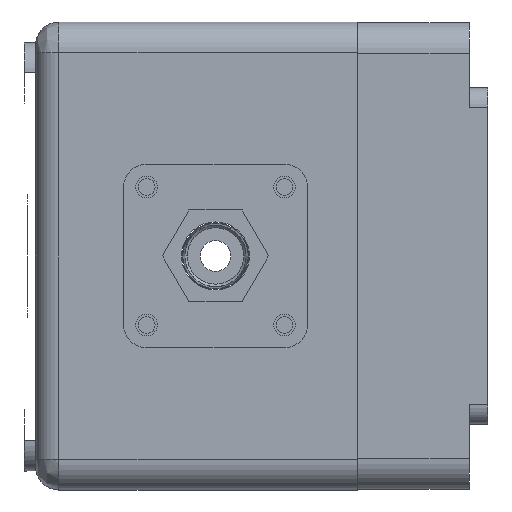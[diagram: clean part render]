
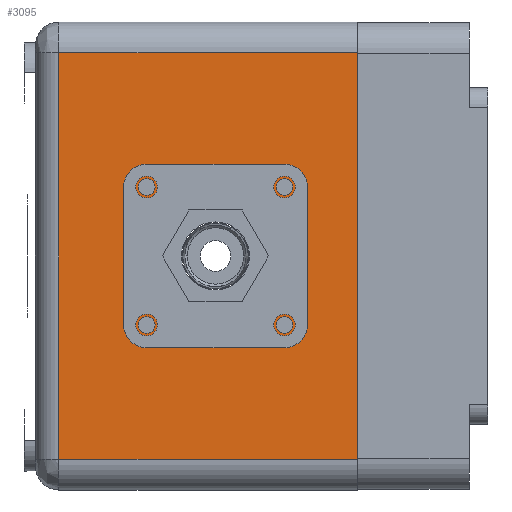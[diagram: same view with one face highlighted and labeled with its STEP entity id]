
A CAD part, front view. The second image highlights one B-rep face of the part: STEP entity #3095.
In plain terms, the highlighted planar face has unit normal (0, -1, 0).
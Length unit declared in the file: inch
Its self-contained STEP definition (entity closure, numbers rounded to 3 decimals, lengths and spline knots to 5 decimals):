
#188=DIRECTION('',(0.,0.,-1.));
#189=VECTOR('',#188,3.32);
#190=CARTESIAN_POINT('',(0.,-3.785,1.66));
#191=LINE('',#190,#189);
#474=DIRECTION('',(0.,0.,1.));
#475=VECTOR('',#474,3.32);
#476=CARTESIAN_POINT('',(-2.44,-3.785,-1.66));
#477=LINE('',#476,#475);
#478=DIRECTION('',(-1.,0.,0.));
#479=VECTOR('',#478,2.44);
#480=CARTESIAN_POINT('',(0.,-3.785,1.66));
#481=LINE('',#480,#479);
#482=DIRECTION('',(-1.,0.,0.));
#483=VECTOR('',#482,2.44);
#484=CARTESIAN_POINT('',(0.,-3.785,-1.66));
#485=LINE('',#484,#483);
#486=CARTESIAN_POINT('',(-1.16,-3.785,0.));
#487=DIRECTION('',(0.,-1.,0.));
#488=DIRECTION('',(-1.,0.,0.));
#489=AXIS2_PLACEMENT_3D('',#486,#487,#488);
#491=CARTESIAN_POINT('',(-1.16,-3.785,0.));
#492=DIRECTION('',(0.,-1.,0.));
#493=DIRECTION('',(1.,0.,0.));
#494=AXIS2_PLACEMENT_3D('',#491,#492,#493);
#496=CARTESIAN_POINT('',(-0.5975,-3.785,-0.5625));
#497=DIRECTION('',(0.,-1.,0.));
#498=DIRECTION('',(-1.,0.,0.));
#499=AXIS2_PLACEMENT_3D('',#496,#497,#498);
#501=CARTESIAN_POINT('',(-0.5975,-3.785,-0.5625));
#502=DIRECTION('',(0.,-1.,0.));
#503=DIRECTION('',(1.,0.,0.));
#504=AXIS2_PLACEMENT_3D('',#501,#502,#503);
#506=CARTESIAN_POINT('',(-1.7225,-3.785,-0.5625));
#507=DIRECTION('',(0.,-1.,0.));
#508=DIRECTION('',(-1.,0.,0.));
#509=AXIS2_PLACEMENT_3D('',#506,#507,#508);
#511=CARTESIAN_POINT('',(-1.7225,-3.785,-0.5625));
#512=DIRECTION('',(0.,-1.,0.));
#513=DIRECTION('',(1.,0.,0.));
#514=AXIS2_PLACEMENT_3D('',#511,#512,#513);
#516=CARTESIAN_POINT('',(-0.5975,-3.785,0.5625));
#517=DIRECTION('',(0.,-1.,0.));
#518=DIRECTION('',(-1.,0.,0.));
#519=AXIS2_PLACEMENT_3D('',#516,#517,#518);
#521=CARTESIAN_POINT('',(-0.5975,-3.785,0.5625));
#522=DIRECTION('',(0.,-1.,0.));
#523=DIRECTION('',(1.,0.,0.));
#524=AXIS2_PLACEMENT_3D('',#521,#522,#523);
#526=CARTESIAN_POINT('',(-1.7225,-3.785,0.5625));
#527=DIRECTION('',(0.,-1.,0.));
#528=DIRECTION('',(-1.,0.,0.));
#529=AXIS2_PLACEMENT_3D('',#526,#527,#528);
#531=CARTESIAN_POINT('',(-1.7225,-3.785,0.5625));
#532=DIRECTION('',(0.,-1.,0.));
#533=DIRECTION('',(1.,0.,0.));
#534=AXIS2_PLACEMENT_3D('',#531,#532,#533);
#2187=CARTESIAN_POINT('',(0.,-3.785,-1.66));
#2189=VERTEX_POINT('',#2187);
#2196=CARTESIAN_POINT('',(0.,-3.785,1.66));
#2198=VERTEX_POINT('',#2196);
#2209=CARTESIAN_POINT('',(-2.44,-3.785,1.66));
#2211=VERTEX_POINT('',#2209);
#2215=CARTESIAN_POINT('',(-2.44,-3.785,-1.66));
#2216=VERTEX_POINT('',#2215);
#2555=CARTESIAN_POINT('',(-1.7535,-3.785,0.));
#2556=CARTESIAN_POINT('',(-0.5665,-3.785,0.));
#2557=VERTEX_POINT('',#2555);
#2558=VERTEX_POINT('',#2556);
#2559=CARTESIAN_POINT('',(-0.666,-3.785,-0.5625));
#2560=CARTESIAN_POINT('',(-0.529,-3.785,-0.5625));
#2561=VERTEX_POINT('',#2559);
#2562=VERTEX_POINT('',#2560);
#2563=CARTESIAN_POINT('',(-1.791,-3.785,-0.5625));
#2564=CARTESIAN_POINT('',(-1.654,-3.785,-0.5625));
#2565=VERTEX_POINT('',#2563);
#2566=VERTEX_POINT('',#2564);
#2567=CARTESIAN_POINT('',(-0.666,-3.785,0.5625));
#2568=CARTESIAN_POINT('',(-0.529,-3.785,0.5625));
#2569=VERTEX_POINT('',#2567);
#2570=VERTEX_POINT('',#2568);
#2571=CARTESIAN_POINT('',(-1.791,-3.785,0.5625));
#2572=CARTESIAN_POINT('',(-1.654,-3.785,0.5625));
#2573=VERTEX_POINT('',#2571);
#2574=VERTEX_POINT('',#2572);
#3051=CARTESIAN_POINT('',(0.,-3.785,1.91));
#3052=DIRECTION('',(0.,-1.,0.));
#3053=DIRECTION('',(0.,0.,-1.));
#3054=AXIS2_PLACEMENT_3D('',#3051,#3052,#3053);
#3055=PLANE('',#3054);
#3057=ORIENTED_EDGE('',*,*,#3056,.T.);
#3059=ORIENTED_EDGE('',*,*,#3058,.F.);
#3060=ORIENTED_EDGE('',*,*,#2792,.T.);
#3062=ORIENTED_EDGE('',*,*,#3061,.T.);
#3063=EDGE_LOOP('',(#3057,#3059,#3060,#3062));
#3064=FACE_OUTER_BOUND('',#3063,.F.);
#3066=ORIENTED_EDGE('',*,*,#3065,.T.);
#3068=ORIENTED_EDGE('',*,*,#3067,.T.);
#3069=EDGE_LOOP('',(#3066,#3068));
#3070=FACE_BOUND('',#3069,.F.);
#3072=ORIENTED_EDGE('',*,*,#3071,.T.);
#3074=ORIENTED_EDGE('',*,*,#3073,.T.);
#3075=EDGE_LOOP('',(#3072,#3074));
#3076=FACE_BOUND('',#3075,.F.);
#3078=ORIENTED_EDGE('',*,*,#3077,.T.);
#3080=ORIENTED_EDGE('',*,*,#3079,.T.);
#3081=EDGE_LOOP('',(#3078,#3080));
#3082=FACE_BOUND('',#3081,.F.);
#3084=ORIENTED_EDGE('',*,*,#3083,.T.);
#3086=ORIENTED_EDGE('',*,*,#3085,.T.);
#3087=EDGE_LOOP('',(#3084,#3086));
#3088=FACE_BOUND('',#3087,.F.);
#3090=ORIENTED_EDGE('',*,*,#3089,.T.);
#3092=ORIENTED_EDGE('',*,*,#3091,.T.);
#3093=EDGE_LOOP('',(#3090,#3092));
#3094=FACE_BOUND('',#3093,.F.);
#3095=ADVANCED_FACE('',(#3064,#3070,#3076,#3082,#3088,#3094),#3055,.T.);
#490=CIRCLE('',#489,0.5935);
#495=CIRCLE('',#494,0.5935);
#500=CIRCLE('',#499,0.0685);
#505=CIRCLE('',#504,0.0685);
#510=CIRCLE('',#509,0.0685);
#515=CIRCLE('',#514,0.0685);
#520=CIRCLE('',#519,0.0685);
#525=CIRCLE('',#524,0.0685);
#530=CIRCLE('',#529,0.0685);
#535=CIRCLE('',#534,0.0685);
#2792=EDGE_CURVE('',#2198,#2189,#191,.T.);
#3056=EDGE_CURVE('',#2216,#2211,#477,.T.);
#3058=EDGE_CURVE('',#2198,#2211,#481,.T.);
#3061=EDGE_CURVE('',#2189,#2216,#485,.T.);
#3065=EDGE_CURVE('',#2557,#2558,#490,.T.);
#3067=EDGE_CURVE('',#2558,#2557,#495,.T.);
#3071=EDGE_CURVE('',#2561,#2562,#500,.T.);
#3073=EDGE_CURVE('',#2562,#2561,#505,.T.);
#3077=EDGE_CURVE('',#2565,#2566,#510,.T.);
#3079=EDGE_CURVE('',#2566,#2565,#515,.T.);
#3083=EDGE_CURVE('',#2569,#2570,#520,.T.);
#3085=EDGE_CURVE('',#2570,#2569,#525,.T.);
#3089=EDGE_CURVE('',#2573,#2574,#530,.T.);
#3091=EDGE_CURVE('',#2574,#2573,#535,.T.);
